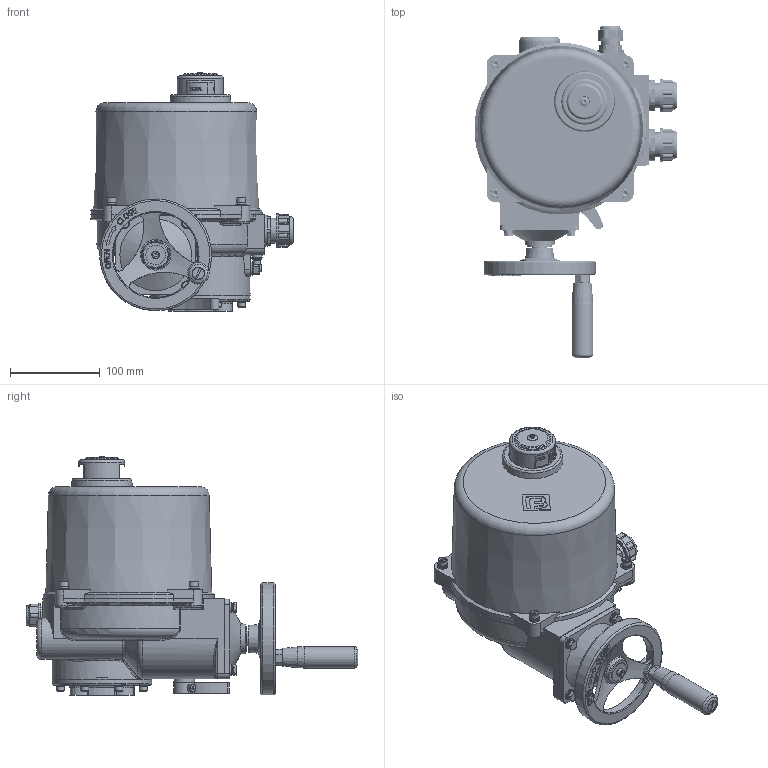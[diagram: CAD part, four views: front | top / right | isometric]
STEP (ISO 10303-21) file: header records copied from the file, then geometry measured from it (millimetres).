
FILE_DESCRIPTION(('STEP AP242'), '1');
FILE_NAME('8101', '', ('UNSPECIFIED'), ('UNSPECIFIED'), 'C3D Converter', 'C3D Toolkit', '');
FILE_SCHEMA(('AP242_MANAGED_MODEL_BASED_3D_ENGINEERING_MIM_LF { 1 0 10303 442 1 1 4 }'));
Length unit declared in the file: millimetre
Products named in the file (1): ГЗ-ОФ (М)
Bounding box: 226.61 x 370.6 x 266.37 mm (x, y, z)
Volume: 6891.5 mm3; surface area: 595797.9 mm2
Topology: 1 solids, 47 shells, 3319 faces, 9385 edges, 6158 vertices
Faces by surface type: plane 1481, cylinder 975, cone 323, bspline 284, torus 219, sphere 37
Full cylindrical faces by diameter (mm): 3.242 x3, 3.545 x1, 4 x5, 4.134 x15, 4.2 x1, 4.3 x1, 4.5 x1, 4.917 x11, 5 x18, 5.3 x1, 5.459 x1, 5.5 x11, 6 x12, 6.2 x1, 6.3 x2, 6.4 x8, 6.647 x4, 7 x12, 7.5 x2, 8 x4, 8.5 x14, 8.9 x4, 9 x3, 10 x11, 10.2 x1, 10.5 x1, 11.3 x1, 12 x13, 12.2 x2, 12.5 x1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
Entity records: 206609 total; most frequent: CARTESIAN_POINT 97923, ORIENTED_EDGE 17477, DIRECTION 16366, EDGE_CURVE 8749, AXIS2_PLACEMENT_3D 6651, VERTEX_POINT 6070, EDGE_LOOP 4192, FACE_BOUND 3900
